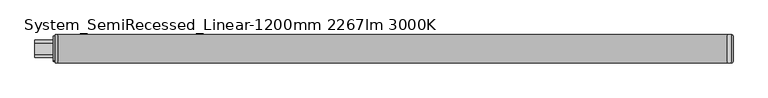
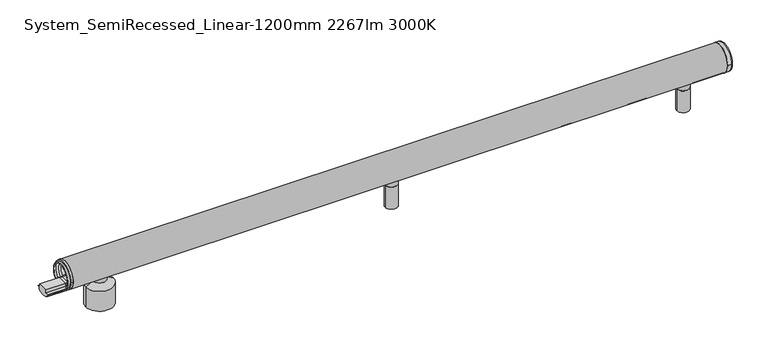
"""IFC4 building model written with IfcOpenShell, lengths in millimetres: light fixture geometry, ARTEMIDE-AoL-System-Linear_WallCeiling_US : System_SemiRecessed_Linear-1200mm 2267lm 3000K."""

from ifc_helpers import new_model, si_unit, point, frame, frame_2d, origin, place, context, project, spatial, polyline, circle_curve, ellipse_curve, trimmed, segment, composite_curve, outline, extrude, source, transform, mapped, element, save
from ifc_brep_helpers import plane_surface, cylinder_surface, revolved_surface, advanced_brep


def system_semirecessed_linear_1200mm_2267lm_3000k_53eef724(model_context):
    return source(origin(), model_context, "Body", "SolidModel", [
        advanced_brep(
        [(-2.0, 25.0245983, 74.9754017), (-2.0, -25.0245983, 74.9754017), (-2.0, -9.5062575, 60.6916114), (-2.0, -9.5062575, 64.3781516), (-2.0, 9.5062575, 64.3781516), (-2.0, 9.5062575, 60.6916114), (-2.0, 15.4273739, 60.6916114), (-2.0, 17.2867732, 60.6916114), (-2.0, -17.2867732, 60.6916114), (-2.0, -15.4273739, 60.6916114), (2.0, 25.0245983, 74.9754017), (2.0, -25.0245983, 74.9754017), (2.0, -9.5062575, 60.6916114), (2.0, -15.4273739, 60.6916114), (2.0, -17.2867732, 60.6916114), (2.0, 17.2867732, 60.6916114), (2.0, 15.4273739, 60.6916114), (2.0, 9.5062575, 60.6916114), (2.0, 9.5062575, 64.3781516), (2.0, -9.5062575, 64.3781516), (-6.0, -15.4273739, 60.6916114), (-6.0, -17.2867732, 60.6916114), (-6.0, 17.2867732, 60.6916114), (-6.0, 15.4273739, 60.6916114), (6.0, -15.4273739, 60.6916114), (6.0, 15.4273739, 60.6916114), (6.0, 17.2867732, 60.6916114), (6.0, -17.2867732, 60.6916114)],
        [
            (0, 1, circle_curve(frame((-2.0, 0.0, 74.9754017), z_axis=(-1.0, 0.0, 0.0), x_axis=(0.0, -1.0, 0.0)), 25.0245983)),
            (1, 0, circle_curve(frame((-2.0, 0.0, 74.9754017), z_axis=(-1.0, 0.0, 0.0), x_axis=(0.0, -1.0, 0.0)), 25.0245983)),
            (2, 3),
            (3, 4),
            (4, 5),
            (5, 6),
            (6, 7),
            (7, 8, circle_curve(frame((-2.0, 0.0, 74.9754017), z_axis=(1.0, 0.0, 0.0), x_axis=(0.0, -1.0, 0.0)), 22.4245221)),
            (8, 9),
            (9, 2),
            (10, 11, circle_curve(frame((2.0, 0.0, 74.9754017), z_axis=(1.0, 0.0, 0.0), x_axis=(0.0, -1.0, 0.0)), 25.0245983)),
            (11, 10, circle_curve(frame((2.0, 0.0, 74.9754017), z_axis=(1.0, 0.0, 0.0), x_axis=(0.0, -1.0, 0.0)), 25.0245983)),
            (12, 13),
            (13, 14),
            (14, 15, circle_curve(frame((2.0, 0.0, 74.9754017), z_axis=(-1.0, 0.0, 0.0), x_axis=(0.0, -1.0, 0.0)), 22.4245221)),
            (15, 16),
            (16, 17),
            (17, 18),
            (18, 19),
            (19, 12),
            (5, 17),
            (16, 6),
            (9, 13),
            (12, 2),
            (19, 3),
            (0, 10),
            (11, 1),
            (16, 13, circle_curve(frame((2.0, 0.0, 74.9754017), z_axis=(1.0, 0.0, 0.0), x_axis=(0.0, -1.0, 0.0)), 21.0245221)),
            (9, 6, circle_curve(frame((-2.0, 0.0, 74.9754017), z_axis=(-1.0, 0.0, 0.0), x_axis=(0.0, -1.0, 0.0)), 21.0245221)),
            (20, 21),
            (21, 22, circle_curve(frame((-6.0, 0.0, 74.9754017), z_axis=(-1.0, 0.0, 0.0), x_axis=(0.0, -1.0, 0.0)), 22.4245221)),
            (22, 23),
            (23, 20, circle_curve(frame((-6.0, 0.0, 74.9754017), z_axis=(1.0, 0.0, 0.0), x_axis=(0.0, -1.0, 0.0)), 21.0245221)),
            (24, 25, circle_curve(frame((6.0, 0.0, 74.9754017), z_axis=(-1.0, 0.0, 0.0), x_axis=(0.0, -1.0, 0.0)), 21.0245221)),
            (25, 26),
            (26, 27, circle_curve(frame((6.0, 0.0, 74.9754017), z_axis=(1.0, 0.0, 0.0), x_axis=(0.0, -1.0, 0.0)), 22.4245221)),
            (27, 24),
            (23, 6),
            (9, 20),
            (24, 13),
            (16, 25),
            (8, 21),
            (27, 14),
            (7, 22),
            (26, 15),
            (18, 4),
        ],
        [
            plane_surface(frame((-2.0, 0.0, 74.9754017), z_axis=(-1.0, 0.0, 0.0), x_axis=(0.0, 0.0, -1.0))),
            plane_surface(frame((2.0, 0.0, 74.9754017), z_axis=(1.0, 0.0, 0.0), x_axis=(0.0, 0.0, -1.0))),
            plane_surface(frame((-2.0, 9.5062575, 60.6916114), z_axis=(0.0, 0.0, 1.0), x_axis=(1.0, 0.0, 0.0))),
            plane_surface(frame((-2.0, -15.4273739, 60.6916114), z_axis=(0.0, 0.0, 1.0), x_axis=(1.0, 0.0, 0.0))),
            plane_surface(frame((-2.0, -9.5062575, 60.6916114), z_axis=(0.0, -1.0, 0.0), x_axis=(1.0, 0.0, 0.0))),
            cylinder_surface(frame((-2.0, 0.0, 74.9754017), z_axis=(-1.0, 0.0, 0.0), x_axis=(0.0, -1.0, 0.0)), 25.0245983),
            revolved_surface(polyline([(2.0, -21.0245221, 74.9754017), (-2.0, -21.0245221, 74.9754017)]), (-2.0, 0.0, 74.9754017), (1.0, 0.0, 0.0)),
            plane_surface(frame((-6.0, 0.0, 74.9754017), z_axis=(-1.0, 0.0, 0.0), x_axis=(0.0, 0.0, -1.0))),
            plane_surface(frame((6.0, 0.0, 74.9754017), z_axis=(1.0, 0.0, 0.0), x_axis=(0.0, 0.0, -1.0))),
            revolved_surface(polyline([(-2.0, -21.0245221, 74.9754017), (-6.0, -21.0245221, 74.9754017)]), (-6.0, 0.0, 74.9754017), (1.0, 0.0, 0.0)),
            revolved_surface(polyline([(6.0, -21.0245221, 74.9754017), (2.0, -21.0245221, 74.9754017)]), (-6.0, 0.0, 74.9754017), (1.0, 0.0, 0.0)),
            plane_surface(frame((-6.0, -15.4273739, 60.6916114), z_axis=(0.0, 0.0, -1.0), x_axis=(1.0, 0.0, 0.0))),
            cylinder_surface(frame((-6.0, 0.0, 74.9754017), z_axis=(-1.0, 0.0, 0.0), x_axis=(0.0, -1.0, 0.0)), 22.4245221),
            plane_surface(frame((-6.0, 17.2867732, 60.6916114), z_axis=(0.0, 0.0, -1.0), x_axis=(1.0, 0.0, 0.0))),
            plane_surface(frame((-2.0, -9.5062575, 64.3781516), z_axis=(0.0, 0.0, 1.0), x_axis=(1.0, 0.0, 0.0))),
            plane_surface(frame((-2.0, 9.5062575, 64.3781516), z_axis=(0.0, 1.0, 0.0), x_axis=(1.0, 0.0, 0.0))),
        ],
        [
            (0, [[1, 2], [3, 4, 5, 6, 7, 8, 9, 10]]),
            (1, [[11, 12], [13, 14, 15, 16, 17, 18, 19, 20]]),
            (2, [[-6, 21, -17, 22]]),
            (3, [[-10, 23, -13, 24]]),
            (4, [[-3, -24, -20, 25]]),
            (5, [[-1, 26, -12, 27]]),
            (6, [[-22, 28, -23, 29]]),
            (7, [[30, 31, 32, 33]]),
            (8, [[34, 35, 36, 37]]),
            (9, [[-33, 38, -29, 39]]),
            (10, [[-34, 40, -28, 41]]),
            (11, [[-30, -39, -9, 42]]),
            (11, [[-37, 43, -14, -40]]),
            (12, [[-31, -42, -8, 44]]),
            (12, [[-36, 45, -15, -43]]),
            (13, [[-32, -44, -7, -38]]),
            (13, [[-35, -41, -16, -45]]),
            (5, [[-2, -27, -11, -26]]),
            (14, [[-4, -25, -19, 46]]),
            (15, [[-5, -46, -18, -21]]),
        ],
    ),
        extrude(outline(composite_curve([segment(polyline([(-11.75, 57.2067494), (-15.304087, 57.2067494), (-15.304087, 58.7367744), (-9.5062575, 58.7367744), (-9.5062575, 64.3781516), (9.5062575, 64.3781516), (9.5062575, 58.7367744), (15.304087, 58.7367744), (15.304087, 57.2067494), (11.75, 57.2067494), (11.75, 52.880877)]), True, "CONTINUOUS"), segment(trimmed(circle_curve(frame_2d((0.0, 74.9754017)), 25.0245983), [point((11.75, 52.880877))], [point((-11.75, 52.880877))], False, "CARTESIAN"), True, "CONTINUOUS"), segment(polyline([(-11.75, 52.880877), (-11.75, 57.2067494)]), True, "CONTINUOUS")], self_intersect=False)), frame((2.0, 0.0, 0.0), z_axis=(1.0, 0.0, 0.0), x_axis=(0.0, 1.0, 0.0)), (0.0, 0.0, 1.0), 36.0),
        extrude(outline(composite_curve([segment(polyline([(-11.75, 57.2067494), (-15.304087, 57.2067494), (-15.304087, 58.7367744), (-9.5062575, 58.7367744), (-9.5062575, 64.3781516), (9.5062575, 64.3781516), (9.5062575, 58.7367744), (15.304087, 58.7367744), (15.304087, 57.2067494), (11.75, 57.2067494), (11.75, 52.880877)]), True, "CONTINUOUS"), segment(trimmed(circle_curve(frame_2d((0.0, 74.9754017)), 25.0245983), [point((11.75, 52.880877))], [point((-11.75, 52.880877))], False, "CARTESIAN"), True, "CONTINUOUS"), segment(polyline([(-11.75, 52.880877), (-11.75, 57.2067494)]), True, "CONTINUOUS")], self_intersect=False)), frame((-38.0, 0.0, 0.0), z_axis=(1.0, 0.0, 0.0), x_axis=(0.0, 1.0, 0.0)), (0.0, 0.0, 1.0), 36.0),
        advanced_brep(
        [(585.3054564, 0.0, 1.0), (594.6945436, 0.0, 1.0), (594.6945436, 0.0, 0.0), (585.3054564, 0.0, 0.0), (578.8054564, 0.0, 1.0), (601.1945436, 0.0, 1.0), (578.8054564, 0.0, 42.5), (601.1945436, 0.0, 42.5), (581.2810808, 0.0, 42.5), (598.7189192, 0.0, 42.5), (581.2810808, 0.0, 43.4995055), (598.7189192, 0.0, 43.4995055), (578.8054564, 0.0, 43.4995055), (601.1945436, 0.0, 43.4995055), (578.8054564, 0.0, 52.9333396), (601.1945436, 0.0, 52.9333396), (590.0, 0.0, 52.9333396), (590.0, 0.0, 0.0)],
        [
            (0, 1, circle_curve(frame((590.0, 0.0, 1.0), z_axis=(0.0, 0.0, -1.0), x_axis=(1.0, 0.0, 0.0)), 4.6945436)),
            (1, 2),
            (2, 3, circle_curve(frame((590.0, 0.0, 0.0), z_axis=(0.0, 0.0, 1.0), x_axis=(1.0, 0.0, 0.0)), 4.6945436)),
            (3, 0),
            (1, 0, circle_curve(frame((590.0, 0.0, 1.0), z_axis=(0.0, 0.0, -1.0), x_axis=(1.0, 0.0, 0.0)), 4.6945436)),
            (3, 2, circle_curve(frame((590.0, 0.0, 0.0), z_axis=(0.0, 0.0, 1.0), x_axis=(1.0, 0.0, 0.0)), 4.6945436)),
            (4, 5, circle_curve(frame((590.0, 0.0, 1.0), z_axis=(0.0, 0.0, -1.0), x_axis=(1.0, 0.0, 0.0)), 11.1945436)),
            (5, 1),
            (0, 4),
            (5, 4, circle_curve(frame((590.0, 0.0, 1.0), z_axis=(0.0, 0.0, -1.0), x_axis=(1.0, 0.0, 0.0)), 11.1945436)),
            (6, 7, circle_curve(frame((590.0, 0.0, 42.5), z_axis=(0.0, 0.0, -1.0), x_axis=(1.0, 0.0, 0.0)), 11.1945436)),
            (7, 5),
            (4, 6),
            (7, 6, circle_curve(frame((590.0, 0.0, 42.5), z_axis=(0.0, 0.0, -1.0), x_axis=(1.0, 0.0, 0.0)), 11.1945436)),
            (8, 9, circle_curve(frame((590.0, 0.0, 42.5), z_axis=(0.0, 0.0, -1.0), x_axis=(1.0, 0.0, 0.0)), 8.7189192)),
            (9, 7),
            (6, 8),
            (9, 8, circle_curve(frame((590.0, 0.0, 42.5), z_axis=(0.0, 0.0, -1.0), x_axis=(1.0, 0.0, 0.0)), 8.7189192)),
            (10, 11, circle_curve(frame((590.0, 0.0, 43.4995055), z_axis=(0.0, 0.0, -1.0), x_axis=(1.0, 0.0, 0.0)), 8.7189192)),
            (11, 9),
            (8, 10),
            (11, 10, circle_curve(frame((590.0, 0.0, 43.4995055), z_axis=(0.0, 0.0, -1.0), x_axis=(1.0, 0.0, 0.0)), 8.7189192)),
            (12, 13, circle_curve(frame((590.0, 0.0, 43.4995055), z_axis=(0.0, 0.0, -1.0), x_axis=(1.0, 0.0, 0.0)), 11.1945436)),
            (13, 11),
            (10, 12),
            (13, 12, circle_curve(frame((590.0, 0.0, 43.4995055), z_axis=(0.0, 0.0, -1.0), x_axis=(1.0, 0.0, 0.0)), 11.1945436)),
            (14, 15, circle_curve(frame((590.0, 0.0, 52.9333396), z_axis=(0.0, 0.0, -1.0), x_axis=(1.0, 0.0, 0.0)), 11.1945436)),
            (15, 13),
            (12, 14),
            (15, 14, circle_curve(frame((590.0, 0.0, 52.9333396), z_axis=(0.0, 0.0, -1.0), x_axis=(1.0, 0.0, 0.0)), 11.1945436)),
            (16, 15),
            (14, 16),
            (2, 17),
            (17, 3),
        ],
        [
            cylinder_surface(frame((590.0, 0.0, -58.83358), z_axis=(0.0, 0.0, 1.0), x_axis=(1.0, 0.0, 0.0)), 4.6945436),
            plane_surface(frame((590.0, 0.0, 1.0), z_axis=(0.0, 0.0, -1.0), x_axis=(1.0, 0.0, 0.0))),
            cylinder_surface(frame((590.0, 0.0, -58.83358), z_axis=(0.0, 0.0, 1.0), x_axis=(1.0, 0.0, 0.0)), 11.1945436),
            plane_surface(frame((590.0, 0.0, 42.5), z_axis=(0.0, 0.0, 1.0), x_axis=(1.0, 0.0, 0.0))),
            cylinder_surface(frame((590.0, 0.0, -58.83358), z_axis=(0.0, 0.0, 1.0), x_axis=(1.0, 0.0, 0.0)), 8.7189192),
            plane_surface(frame((590.0, 0.0, 43.4995055), z_axis=(0.0, 0.0, -1.0), x_axis=(1.0, 0.0, 0.0))),
            plane_surface(frame((590.0, 0.0, 52.9333396), z_axis=(0.0, 0.0, 1.0), x_axis=(1.0, 0.0, 0.0))),
            plane_surface(frame((590.0, 0.0, 0.0), z_axis=(0.0, 0.0, -1.0), x_axis=(1.0, 0.0, 0.0))),
        ],
        [
            (0, [[1, 2, 3, 4]]),
            (0, [[5, -4, 6, -2]]),
            (1, [[7, 8, -1, 9]]),
            (1, [[10, -9, -5, -8]]),
            (2, [[11, 12, -7, 13]]),
            (2, [[14, -13, -10, -12]]),
            (3, [[15, 16, -11, 17]]),
            (3, [[18, -17, -14, -16]]),
            (4, [[19, 20, -15, 21]]),
            (4, [[22, -21, -18, -20]]),
            (5, [[23, 24, -19, 25]]),
            (5, [[26, -25, -22, -24]]),
            (2, [[27, 28, -23, 29]]),
            (2, [[30, -29, -26, -28]]),
            (6, [[31, -27, 32]]),
            (6, [[-32, -30, -31]]),
            (7, [[-3, 33, 34]]),
            (7, [[-6, -34, -33]]),
        ],
    ),
        advanced_brep(
        [(64.0, 0.0, 54.0), (76.0, 0.0, 54.0), (52.0, 0.0, 54.0), (39.0, 0.0, 0.0), (89.0, 0.0, 0.0), (64.0, 0.0, 0.0), (39.0, 0.0, 37.5120373), (89.0, 0.0, 37.5120373), (52.0, 0.0, 44.4453706), (76.0, 0.0, 44.4453706)],
        [
            (0, 1),
            (1, 2, circle_curve(frame((64.0, 0.0, 54.0), z_axis=(0.0, 0.0, 1.0), x_axis=(1.0, 0.0, 0.0)), 12.0)),
            (2, 0),
            (2, 1, circle_curve(frame((64.0, 0.0, 54.0), z_axis=(0.0, 0.0, 1.0), x_axis=(1.0, 0.0, 0.0)), 12.0)),
            (3, 4, circle_curve(frame((64.0, 0.0, 0.0), z_axis=(0.0, 0.0, -1.0), x_axis=(1.0, 0.0, 0.0)), 25.0)),
            (4, 5),
            (5, 3),
            (4, 3, circle_curve(frame((64.0, 0.0, 0.0), z_axis=(0.0, 0.0, -1.0), x_axis=(1.0, 0.0, 0.0)), 25.0)),
            (6, 7, circle_curve(frame((64.0, 0.0, 37.5120373), z_axis=(0.0, 0.0, -1.0), x_axis=(1.0, 0.0, 0.0)), 25.0)),
            (7, 4),
            (3, 6),
            (7, 6, circle_curve(frame((64.0, 0.0, 37.5120373), z_axis=(0.0, 0.0, -1.0), x_axis=(1.0, 0.0, 0.0)), 25.0)),
            (8, 9, circle_curve(frame((64.0, 0.0, 44.4453706), z_axis=(0.0, 0.0, -1.0), x_axis=(1.0, 0.0, 0.0)), 12.0)),
            (9, 7),
            (6, 8),
            (9, 8, circle_curve(frame((64.0, 0.0, 44.4453706), z_axis=(0.0, 0.0, -1.0), x_axis=(1.0, 0.0, 0.0)), 12.0)),
            (1, 9),
            (8, 2),
        ],
        [
            plane_surface(frame((64.0, 0.0, 54.0), z_axis=(0.0, 0.0, 1.0), x_axis=(1.0, 0.0, 0.0))),
            plane_surface(frame((64.0, 0.0, 0.0), z_axis=(0.0, 0.0, -1.0), x_axis=(1.0, 0.0, 0.0))),
            cylinder_surface(frame((64.0, 0.0, -58.83358), z_axis=(0.0, 0.0, 1.0), x_axis=(1.0, 0.0, 0.0)), 25.0),
            revolved_surface(polyline([(89.0, 0.0, 37.5120373), (76.0, 0.0, 44.4453706)]), (64.0, 0.0, -58.83358), (0.0, 0.0, 1.0)),
            cylinder_surface(frame((64.0, 0.0, -58.83358), z_axis=(0.0, 0.0, 1.0), x_axis=(1.0, 0.0, 0.0)), 12.0),
        ],
        [
            (0, [[1, 2, 3]]),
            (0, [[-3, 4, -1]]),
            (1, [[5, 6, 7]]),
            (1, [[8, -7, -6]]),
            (2, [[9, 10, -5, 11]]),
            (2, [[12, -11, -8, -10]]),
            (3, [[13, 14, -9, 15]]),
            (3, [[16, -15, -12, -14]]),
            (4, [[-2, 17, -13, 18]]),
            (4, [[-4, -18, -16, -17]]),
        ],
    ),
        advanced_brep(
        [(1111.3054564, 0.0, 1.0), (1120.6945436, 0.0, 1.0), (1120.6945436, 0.0, 0.0), (1111.3054564, 0.0, 0.0), (1104.8054564, 0.0, 1.0), (1127.1945436, 0.0, 1.0), (1104.8054564, 0.0, 42.5), (1127.1945436, 0.0, 42.5), (1107.2810808, 0.0, 42.5), (1124.7189192, 0.0, 42.5), (1107.2810808, 0.0, 43.4995055), (1124.7189192, 0.0, 43.4995055), (1104.8054564, 0.0, 43.4995055), (1127.1945436, 0.0, 43.4995055), (1104.8054564, 0.0, 52.9333396), (1127.1945436, 0.0, 52.9333396), (1116.0, 0.0, 52.9333396), (1116.0, 0.0, 0.0)],
        [
            (0, 1, circle_curve(frame((1116.0, 0.0, 1.0), z_axis=(0.0, 0.0, -1.0), x_axis=(1.0, 0.0, 0.0)), 4.6945436)),
            (1, 2),
            (2, 3, circle_curve(frame((1116.0, 0.0, 0.0), z_axis=(0.0, 0.0, 1.0), x_axis=(1.0, 0.0, 0.0)), 4.6945436)),
            (3, 0),
            (1, 0, circle_curve(frame((1116.0, 0.0, 1.0), z_axis=(0.0, 0.0, -1.0), x_axis=(1.0, 0.0, 0.0)), 4.6945436)),
            (3, 2, circle_curve(frame((1116.0, 0.0, 0.0), z_axis=(0.0, 0.0, 1.0), x_axis=(1.0, 0.0, 0.0)), 4.6945436)),
            (4, 5, circle_curve(frame((1116.0, 0.0, 1.0), z_axis=(0.0, 0.0, -1.0), x_axis=(1.0, 0.0, 0.0)), 11.1945436)),
            (5, 1),
            (0, 4),
            (5, 4, circle_curve(frame((1116.0, 0.0, 1.0), z_axis=(0.0, 0.0, -1.0), x_axis=(1.0, 0.0, 0.0)), 11.1945436)),
            (6, 7, circle_curve(frame((1116.0, 0.0, 42.5), z_axis=(0.0, 0.0, -1.0), x_axis=(1.0, 0.0, 0.0)), 11.1945436)),
            (7, 5),
            (4, 6),
            (7, 6, circle_curve(frame((1116.0, 0.0, 42.5), z_axis=(0.0, 0.0, -1.0), x_axis=(1.0, 0.0, 0.0)), 11.1945436)),
            (8, 9, circle_curve(frame((1116.0, 0.0, 42.5), z_axis=(0.0, 0.0, -1.0), x_axis=(1.0, 0.0, 0.0)), 8.7189192)),
            (9, 7),
            (6, 8),
            (9, 8, circle_curve(frame((1116.0, 0.0, 42.5), z_axis=(0.0, 0.0, -1.0), x_axis=(1.0, 0.0, 0.0)), 8.7189192)),
            (10, 11, circle_curve(frame((1116.0, 0.0, 43.4995055), z_axis=(0.0, 0.0, -1.0), x_axis=(1.0, 0.0, 0.0)), 8.7189192)),
            (11, 9),
            (8, 10),
            (11, 10, circle_curve(frame((1116.0, 0.0, 43.4995055), z_axis=(0.0, 0.0, -1.0), x_axis=(1.0, 0.0, 0.0)), 8.7189192)),
            (12, 13, circle_curve(frame((1116.0, 0.0, 43.4995055), z_axis=(0.0, 0.0, -1.0), x_axis=(1.0, 0.0, 0.0)), 11.1945436)),
            (13, 11),
            (10, 12),
            (13, 12, circle_curve(frame((1116.0, 0.0, 43.4995055), z_axis=(0.0, 0.0, -1.0), x_axis=(1.0, 0.0, 0.0)), 11.1945436)),
            (14, 15, circle_curve(frame((1116.0, 0.0, 52.9333396), z_axis=(0.0, 0.0, -1.0), x_axis=(1.0, 0.0, 0.0)), 11.1945436)),
            (15, 13),
            (12, 14),
            (15, 14, circle_curve(frame((1116.0, 0.0, 52.9333396), z_axis=(0.0, 0.0, -1.0), x_axis=(1.0, 0.0, 0.0)), 11.1945436)),
            (16, 15),
            (14, 16),
            (2, 17),
            (17, 3),
        ],
        [
            cylinder_surface(frame((1116.0, 0.0, -58.83358), z_axis=(0.0, 0.0, 1.0), x_axis=(1.0, 0.0, 0.0)), 4.6945436),
            plane_surface(frame((1116.0, 0.0, 1.0), z_axis=(0.0, 0.0, -1.0), x_axis=(1.0, 0.0, 0.0))),
            cylinder_surface(frame((1116.0, 0.0, -58.83358), z_axis=(0.0, 0.0, 1.0), x_axis=(1.0, 0.0, 0.0)), 11.1945436),
            plane_surface(frame((1116.0, 0.0, 42.5), z_axis=(0.0, 0.0, 1.0), x_axis=(1.0, 0.0, 0.0))),
            cylinder_surface(frame((1116.0, 0.0, -58.83358), z_axis=(0.0, 0.0, 1.0), x_axis=(1.0, 0.0, 0.0)), 8.7189192),
            plane_surface(frame((1116.0, 0.0, 43.4995055), z_axis=(0.0, 0.0, -1.0), x_axis=(1.0, 0.0, 0.0))),
            plane_surface(frame((1116.0, 0.0, 52.9333396), z_axis=(0.0, 0.0, 1.0), x_axis=(1.0, 0.0, 0.0))),
            plane_surface(frame((1116.0, 0.0, 0.0), z_axis=(0.0, 0.0, -1.0), x_axis=(1.0, 0.0, 0.0))),
        ],
        [
            (0, [[1, 2, 3, 4]]),
            (0, [[5, -4, 6, -2]]),
            (1, [[7, 8, -1, 9]]),
            (1, [[10, -9, -5, -8]]),
            (2, [[11, 12, -7, 13]]),
            (2, [[14, -13, -10, -12]]),
            (3, [[15, 16, -11, 17]]),
            (3, [[18, -17, -14, -16]]),
            (4, [[19, 20, -15, 21]]),
            (4, [[22, -21, -18, -20]]),
            (5, [[23, 24, -19, 25]]),
            (5, [[26, -25, -22, -24]]),
            (2, [[27, 28, -23, 29]]),
            (2, [[30, -29, -26, -28]]),
            (6, [[31, -27, 32]]),
            (6, [[-32, -30, -31]]),
            (7, [[-3, 33, 34]]),
            (7, [[-6, -34, -33]]),
        ],
    ),
        advanced_brep(
        [(1192.0, -22.0, 75.0), (1192.0, 22.0, 75.0), (1182.0, 25.0, 75.0), (1182.0, -25.0, 75.0), (1189.0, -25.0, 75.0), (1189.0, 25.0, 75.0)],
        [
            (0, 1, circle_curve(frame((1192.0, 0.0, 75.0), z_axis=(1.0, 0.0, 0.0), x_axis=(0.0, 1.0, 0.0)), 22.0)),
            (1, 0, circle_curve(frame((1192.0, 0.0, 75.0), z_axis=(1.0, 0.0, 0.0), x_axis=(0.0, -1.0, 0.0)), 22.0)),
            (2, 3, circle_curve(frame((1182.0, 0.0, 75.0), z_axis=(-1.0, 0.0, 0.0), x_axis=(0.0, 0.0, 1.0)), 25.0)),
            (3, 2, circle_curve(frame((1182.0, 0.0, 75.0), z_axis=(-1.0, 0.0, 0.0), x_axis=(0.0, 0.0, 1.0)), 25.0)),
            (3, 4),
            (4, 5, circle_curve(frame((1189.0, 0.0, 75.0), z_axis=(-1.0, 0.0, 0.0), x_axis=(0.0, 0.0, 1.0)), 25.0)),
            (5, 2),
            (5, 4, circle_curve(frame((1189.0, 0.0, 75.0), z_axis=(-1.0, 0.0, 0.0), x_axis=(0.0, 0.0, 1.0)), 25.0)),
            (0, 4, circle_curve(frame((1189.0, -22.0, 75.0), z_axis=(0.0, 0.0, -1.0), x_axis=(0.0, -1.0, 0.0)), 3.0)),
            (5, 1, circle_curve(frame((1189.0, 22.0, 75.0), z_axis=(0.0, 0.0, -1.0), x_axis=(0.0, 1.0, 0.0)), 3.0)),
        ],
        [
            plane_surface(frame((1192.0, 0.0, 100.0), z_axis=(1.0, 0.0, 0.0), x_axis=(0.0, -1.0, 0.0))),
            plane_surface(frame((1182.0, 0.0, 100.0), z_axis=(-1.0, 0.0, 0.0), x_axis=(0.0, 1.0, 0.0))),
            cylinder_surface(frame((1182.0, 0.0, 75.0), z_axis=(1.0, 0.0, 0.0), x_axis=(0.0, 0.0, 1.0)), 25.0),
            revolved_surface(trimmed(ellipse_curve(frame((1189.0, 22.0, 75.0), z_axis=(0.0, 0.0, 1.0), x_axis=(0.0, 1.0, 0.0)), 3.0, 3.0), [point((1192.0, 22.0, 75.0))], [point((1189.0, 25.0, 75.0))], True, "CARTESIAN"), (1192.0, 0.0, 75.0), (-1.0, 0.0, 0.0)),
            revolved_surface(trimmed(ellipse_curve(frame((1189.0, -22.0, 75.0), z_axis=(0.0, 0.0, -1.0), x_axis=(0.0, -1.0, 0.0)), 3.0, 3.0), [point((1192.0, -22.0, 75.0))], [point((1189.0, -25.0, 75.0))], True, "CARTESIAN"), (1192.0, 0.0, 75.0), (-1.0, 0.0, 0.0)),
        ],
        [
            (0, [[1, 2]]),
            (1, [[3, 4]]),
            (2, [[-4, 5, 6, 7]]),
            (2, [[-3, -7, 8, -5]]),
            (3, [[9, -8, 10, -1]]),
            (4, [[-9, -2, -10, -6]]),
        ],
    ),
        extrude(outline(composite_curve([segment(trimmed(circle_curve(frame_2d((0.0, 75.0)), 25.0), [point((-11.75, 52.9333396))], [point((11.75, 52.9333396))], False, "CARTESIAN"), True, "CONTINUOUS"), segment(polyline([(11.75, 52.9333396), (11.75, 57.259212), (13.667754, 57.259212), (13.667754, 55.8288843), (15.617754, 57.2440748), (15.617754, 59.244074), (12.667754, 59.244074), (12.667754, 60.744074), (17.2779794, 60.744074)]), True, "CONTINUOUS"), segment(trimmed(circle_curve(frame_2d((0.0, 75.0)), 22.4), [point((17.2779794, 60.744074))], [point((-17.2779794, 60.744074))], True, "CARTESIAN"), True, "CONTINUOUS"), segment(polyline([(-17.2779794, 60.744074), (-12.667754, 60.744074), (-12.667754, 59.244074), (-15.617754, 59.244074), (-15.617754, 57.2440748), (-13.667754, 55.8288843), (-13.667754, 57.259212), (-11.75, 57.259212), (-11.75, 52.9333396)]), True, "CONTINUOUS")], self_intersect=False)), frame((2.0, 0.0, 0.0), z_axis=(1.0, 0.0, 0.0), x_axis=(0.0, 1.0, 0.0)), (0.0, 0.0, 1.0), 1180.0),
        extrude(outline(composite_curve([segment(trimmed(circle_curve(frame_2d((0.0, 75.0)), 25.0), [point((11.75, 52.9333396))], [point((-11.75, 52.9333396))], False, "CARTESIAN"), True, "CONTINUOUS"), segment(polyline([(-11.75, 52.9333396), (-11.75, 57.259212), (-15.304087, 57.259212), (-15.304087, 58.785971), (-9.5062575, 58.785971), (-9.5062575, 64.4273482), (9.5062575, 64.4273482), (9.5062575, 58.785971), (15.304087, 58.785971), (15.304087, 57.259212), (11.75, 57.259212), (11.75, 52.9333396)]), True, "CONTINUOUS")], self_intersect=False)), frame((38.0, 0.0, 0.0), z_axis=(1.0, 0.0, 0.0), x_axis=(0.0, 1.0, 0.0)), (0.0, 0.0, 1.0), 1144.0),
    ])


if __name__ == "__main__":
    model = new_model("IFC4")
    model_context = context("Model", 3, world=origin())
    ifc_project = project(units=[si_unit("LENGTHUNIT", "METRE", prefix="MILLI")], contexts=[model_context])
    site = spatial("IfcSite", under=ifc_project)
    building = spatial("IfcBuilding", under=site)
    placement = place(None, origin())
    system_semirecessed_linear_1200mm_2267lm_3000k_shape = system_semirecessed_linear_1200mm_2267lm_3000k_53eef724(model_context)
    element("IfcLightFixture", 1, ObjectType="ARTEMIDE-AoL-System-Linear_WallCeiling_US : System_SemiRecessed_Linear-1200mm 2267lm 3000K", at=placement, inside=building, context=model_context, shape_type="MappedRepresentation", body=[
        mapped(system_semirecessed_linear_1200mm_2267lm_3000k_shape, transform((0.0, 0.0, 0.0), x_axis=(1.0, 0.0, 0.0), y_axis=(0.0, 1.0, 0.0), z_axis=(0.0, 0.0, 1.0))),
    ])
    save(model, "model.ifc")
